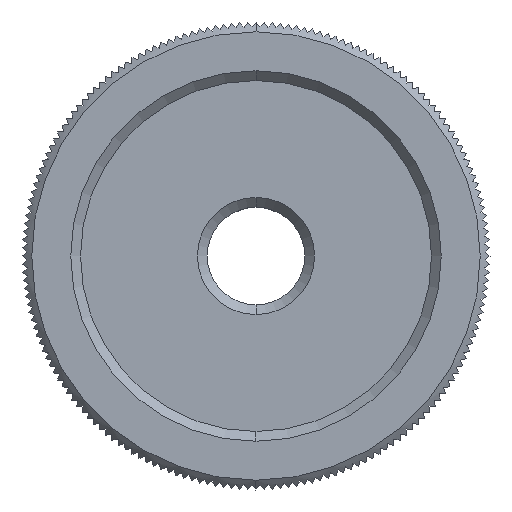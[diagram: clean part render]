
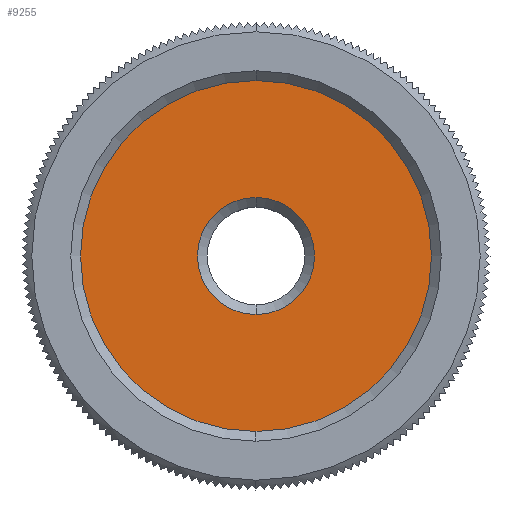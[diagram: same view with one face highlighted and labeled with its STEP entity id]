
A CAD part, left-side view. The second image highlights one B-rep face of the part: STEP entity #9255.
In plain terms, the highlighted planar face has unit normal (-1, 0, 0).
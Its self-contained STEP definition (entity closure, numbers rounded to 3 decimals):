
#6186 = DIRECTION ( 'NONE',  ( 0., 0., 1. ) ) ;
#6187 = DIRECTION ( 'NONE',  ( -1., 0., 0. ) ) ;
#6188 = CARTESIAN_POINT ( 'NONE',  ( -4., 0., 0. ) ) ;
#6189 = AXIS2_PLACEMENT_3D ( 'NONE', #6188, #6187, #6186 ) ;
#6190 = CIRCLE ( 'NONE', #6189, 9. ) ;
#6191 = DIRECTION ( 'NONE',  ( 0., 0., 1. ) ) ;
#6192 = DIRECTION ( 'NONE',  ( 1., 0., 0. ) ) ;
#6193 = AXIS2_PLACEMENT_3D ( 'NONE', #6200, #6192, #6191 ) ;
#6194 = CIRCLE ( 'NONE', #6193, 3. ) ;
#6200 = CARTESIAN_POINT ( 'NONE',  ( -4., 0., 0. ) ) ;
#6272 = DIRECTION ( 'NONE',  ( 0., 0., 1. ) ) ;
#6273 = DIRECTION ( 'NONE',  ( -1., 0., 0. ) ) ;
#6274 = CARTESIAN_POINT ( 'NONE',  ( -4., 0., 0. ) ) ;
#6275 = AXIS2_PLACEMENT_3D ( 'NONE', #6274, #6273, #6272 ) ;
#6276 = PLANE ( 'NONE',  #6275 ) ;
#6277 = FACE_OUTER_BOUND ( 'NONE', #9186, .T. ) ;
#6278 = FACE_BOUND ( 'NONE', #9256, .T. ) ;
#9183 = ORIENTED_EDGE ( 'NONE', *, *, #10362, .T. ) ;
#9184 = ORIENTED_EDGE ( 'NONE', *, *, #9185, .T. ) ;
#9185 = EDGE_CURVE ( 'NONE', #10360, #10363, #6194, .T. ) ;
#9186 = EDGE_LOOP ( 'NONE', ( #9187, #9239 ) ) ;
#9187 = ORIENTED_EDGE ( 'NONE', *, *, #9188, .T. ) ;
#9188 = EDGE_CURVE ( 'NONE', #10344, #10343, #6190, .T. ) ;
#9239 = ORIENTED_EDGE ( 'NONE', *, *, #10342, .T. ) ;
#9255 = ADVANCED_FACE ( 'NONE', ( #6278, #6277 ), #6276, .T. ) ;
#9256 = EDGE_LOOP ( 'NONE', ( #9183, #9184 ) ) ;
#10342 = EDGE_CURVE ( 'NONE', #10343, #10344, #12120, .T. ) ;
#10343 = VERTEX_POINT ( 'NONE', #12116 ) ;
#10344 = VERTEX_POINT ( 'NONE', #12115 ) ;
#10360 = VERTEX_POINT ( 'NONE', #12137 ) ;
#10362 = EDGE_CURVE ( 'NONE', #10363, #10360, #12136, .T. ) ;
#10363 = VERTEX_POINT ( 'NONE', #12131 ) ;
#12065 = CARTESIAN_POINT ( 'NONE',  ( -4., 0., 0. ) ) ;
#12115 = CARTESIAN_POINT ( 'NONE',  ( -4., 0., 9. ) ) ;
#12116 = CARTESIAN_POINT ( 'NONE',  ( -4., 0., -9. ) ) ;
#12117 = DIRECTION ( 'NONE',  ( 0., 0., 1. ) ) ;
#12118 = DIRECTION ( 'NONE',  ( -1., 0., 0. ) ) ;
#12119 = AXIS2_PLACEMENT_3D ( 'NONE', #12065, #12118, #12117 ) ;
#12120 = CIRCLE ( 'NONE', #12119, 9. ) ;
#12131 = CARTESIAN_POINT ( 'NONE',  ( -4., 0., 3. ) ) ;
#12132 = DIRECTION ( 'NONE',  ( 0., 0., 1. ) ) ;
#12133 = DIRECTION ( 'NONE',  ( 1., 0., 0. ) ) ;
#12134 = CARTESIAN_POINT ( 'NONE',  ( -4., 0., 0. ) ) ;
#12135 = AXIS2_PLACEMENT_3D ( 'NONE', #12134, #12133, #12132 ) ;
#12136 = CIRCLE ( 'NONE', #12135, 3. ) ;
#12137 = CARTESIAN_POINT ( 'NONE',  ( -4., 0., -3. ) ) ;
